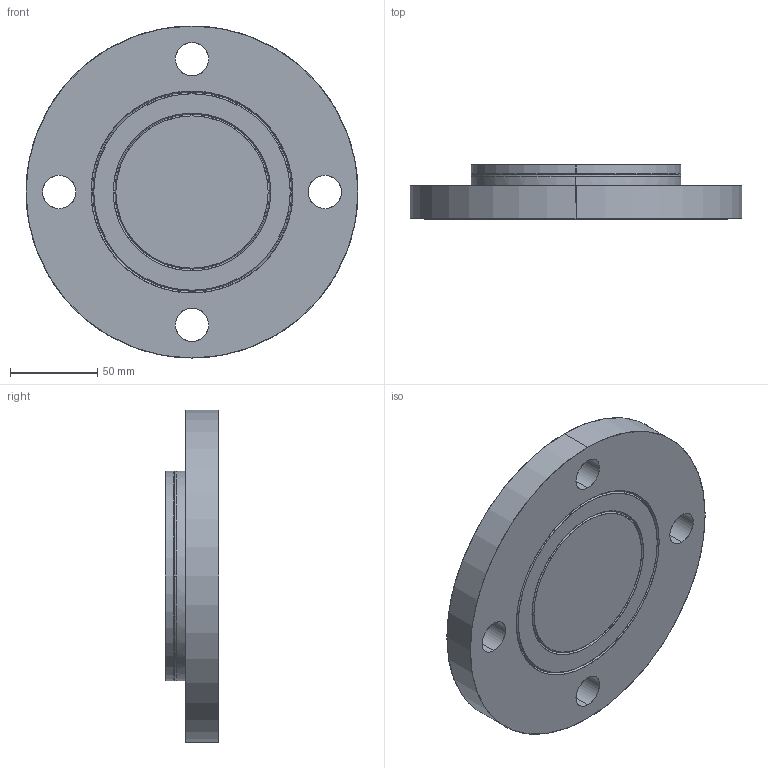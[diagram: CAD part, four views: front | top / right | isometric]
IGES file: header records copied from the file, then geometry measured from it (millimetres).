
Start section: SolidWorks IGES file using analytic representation for surfaces
Global section: file name: C:\Users\kprahl\Desktop\DD Files From Rick\18017001.IGS; native system: SolidWorks 2013; preprocessor: SolidWorks 2013; author: kprahl; date: 131025.090349; units: inch
Bounding box: 190.5 x 30.91 x 190.5 mm (x, y, z)
Surface area: 75601.1 mm2 (no closed solid volume)
Topology: 0 solids, 0 shells, 31 faces, 1017 edges, 1017 vertices
Faces by surface type: revolution 24, bspline 7
